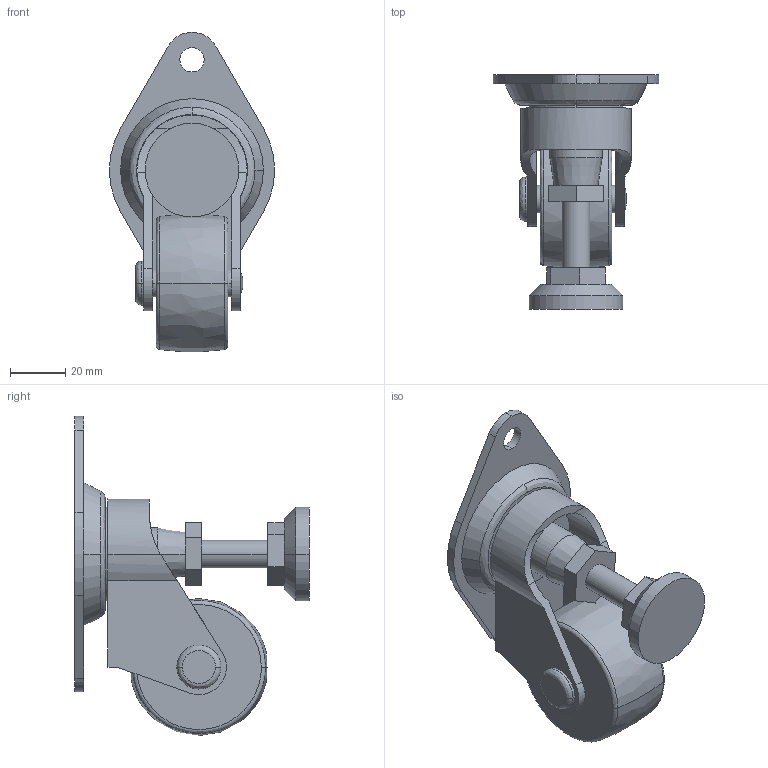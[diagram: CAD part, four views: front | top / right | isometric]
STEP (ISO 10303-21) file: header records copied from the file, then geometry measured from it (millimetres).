
FILE_DESCRIPTION (( 'STEP AP203' ), '1' );
FILE_NAME ('アジャスターフットキャスター(キャリマウント).STEP', '2020-11-19T06:52:39', ( '' ), ( '' ), 'SwSTEP 2.0', 'SolidWorks 2017', '' );
FILE_SCHEMA (( 'CONFIG_CONTROL_DESIGN' ));
Length unit declared in the file: millimetre
Products named in the file (5): K-91-50足_; K-91-50ナット_; K-91-50本体_; アジャスターフットキャスター(キャリマウント); K-91-50プレート_
Assembly tree (5 placements, depth 2):
  アジャスターフットキャスター(キャリマウント)
    K-91-50本体_
    K-91-50プレート_
    K-91-50足_
    K-91-50ナット_  x2
Bounding box: 60 x 85 x 115.9 mm (x, y, z)
Volume: 105955.7 mm3; surface area: 37074.2 mm2
Topology: 5 solids, 5 shells, 107 faces, 249 edges, 162 vertices
Faces by surface type: plane 45, cylinder 43, bspline 13, cone 6
Entity records: 4047 total; most frequent: CARTESIAN_POINT 1275, DIRECTION 485, ORIENTED_EDGE 450, EDGE_CURVE 225, AXIS2_PLACEMENT_3D 192, VERTEX_POINT 146, EDGE_LOOP 117, VECTOR 101
